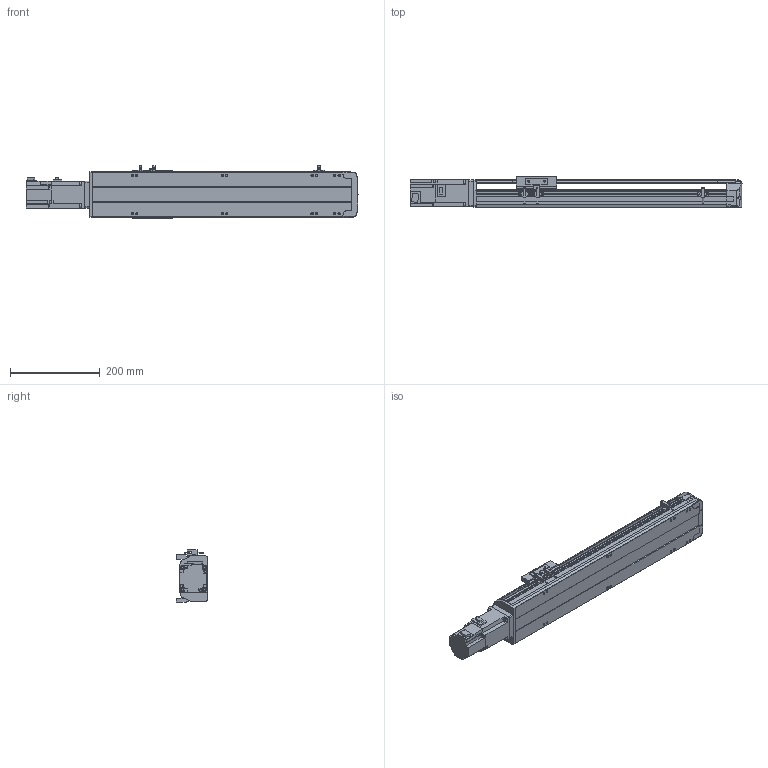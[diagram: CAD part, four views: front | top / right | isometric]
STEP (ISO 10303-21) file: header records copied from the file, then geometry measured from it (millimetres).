
FILE_DESCRIPTION( ( 'STEP AP214' ), '1' );
FILE_NAME( 'x:/temp/worker_13/temp/exporttempdir_3252_144_gVdfP/format_0/PSS120-L10-S350-BC-T40-C1-N(0).stp', '2022-06-02T00:33:00', ( 'License CC BY-ND 4.0' ), ( 'CADENAS' ), ' ', 'PARTsolutions', ' ' );
FILE_SCHEMA( ( 'AUTOMOTIVE_DESIGN { 1 0 10303 214 1 1 1 1 }' ) );
Length unit declared in the file: millimetre
Products named in the file (8): PSS120-L10-S350-BC-T40-C1-N(0); _PSS120-S350-BC-C1-N_body; _PSS120-N_Q; _PSS120-BC-C1-N_sl; _PSS120-N_sensor; _PSS120BC-N_h; _T40-p1; _PSS120-S350-BC-N_S
Assembly tree (9 placements, depth 2):
  PSS120-L10-S350-BC-T40-C1-N(0)
    _PSS120-S350-BC-C1-N_body
    _PSS120-N_Q
    _PSS120-BC-C1-N_sl
    _PSS120-N_sensor  x3
    _PSS120BC-N_h
    _T40-p1
    _PSS120-S350-BC-N_S
Bounding box: 738.7 x 70 x 117.7 mm (x, y, z)
Volume: 2431893.3 mm3; surface area: 446282.6 mm2
Topology: 9 solids, 9 shells, 801 faces, 2144 edges, 1422 vertices
Faces by surface type: plane 547, cylinder 234, cone 20
Full cylindrical faces by diameter (mm): 2.8 x3, 4 x4, 4.134 x12, 4.2 x4, 4.4 x2, 4.5 x4, 4.6 x3, 4.917 x4, 5 x6, 5.5 x15, 7 x2, 8 x8, 8.5 x12, 14 x1, 28 x1, 32 x1, 50 x1
Entity records: 27329 total; most frequent: CARTESIAN_POINT 4190, DIRECTION 3599, ORIENTED_EDGE 3490, EDGE_CURVE 1745, LINE 1233, VECTOR 1233, VERTEX_POINT 1214, AXIS2_PLACEMENT_3D 1183
